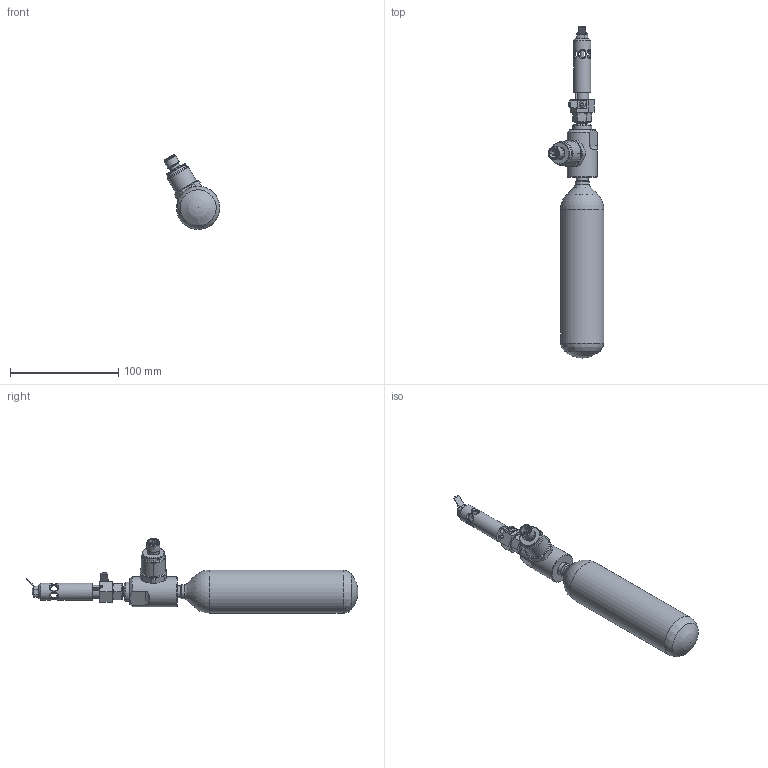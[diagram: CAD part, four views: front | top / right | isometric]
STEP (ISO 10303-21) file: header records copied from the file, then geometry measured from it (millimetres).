
FILE_DESCRIPTION(/* description */ (''),/* implementation_level */ '2;1');
FILE_NAME(/* name */ '40-057-20-32-02 - S-AMFE & R-AMFE - cylinder size 2 and pressure sensor (M12 plug).stp',/* time_stamp */ '2025-03-26T16:21:36+01:00',/* author */ ('ASc'),/* organization */ (''),/* preprocessor_version */ 'ST-DEVELOPER v19.2',/* originating_system */ 'Autodesk Inventor 2023',/* authorisation */ '');
FILE_SCHEMA (('AUTOMOTIVE_DESIGN { 1 0 10303 214 3 1 1 }'));
Length unit declared in the file: millimetre
Products named in the file (1): 40-057-20-32-02_Vereinfachen_1
Bounding box: 51.42 x 306.7 x 69.17 mm (x, y, z)
Volume: 238449.2 mm3; surface area: 35696.3 mm2
Topology: 1 solids, 1 shells, 375 faces, 976 edges, 613 vertices
Faces by surface type: bspline 167, plane 142, cylinder 32, cone 30, torus 3, sphere 1
Full cylindrical faces by diameter (mm): 2.9 x1, 5.7 x2, 6.5 x6, 9.4 x1, 11 x1, 11.9 x1, 12 x1, 12.5 x1, 13 x1, 15 x1, 16 x1, 17.5 x1, 28 x1, 40 x1
Entity records: 19827 total; most frequent: CARTESIAN_POINT 10967, ORIENTED_EDGE 1948, DIRECTION 1399, EDGE_CURVE 974, VERTEX_POINT 613, AXIS2_PLACEMENT_3D 503, EDGE_LOOP 405, LINE 393
